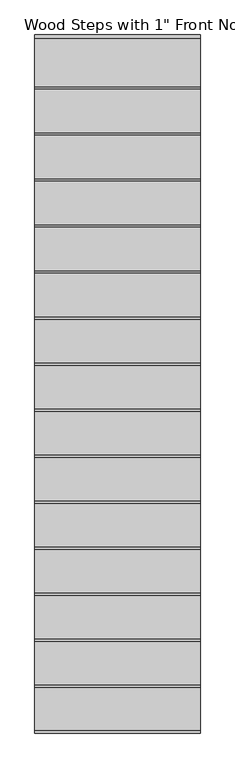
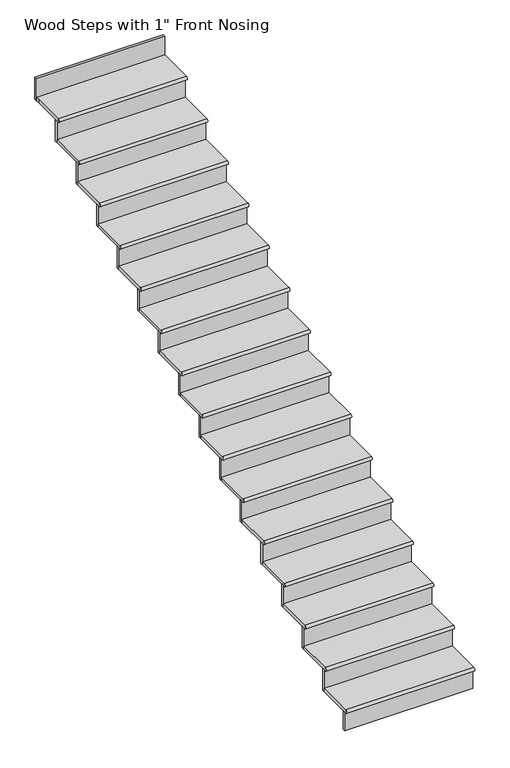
"""IFC4 building model written with IfcOpenShell, lengths in millimetres: stair flight geometry."""

from ifc_helpers import new_model, si_unit, frame, origin, place, context, project, spatial, circle_curve, faceted_brep, source, transform, mapped, element, save
from ifc_brep_helpers import plane_surface, cylinder_surface, advanced_brep


def stair_flight_ca58553a(model_context):
    return source(origin(), model_context, "Body", "SolidModel", [
        advanced_brep(
        [(11724.1620514, -5487.6289462, -819.546875), (11724.1620514, -5487.6289462, -794.146875), (10809.7620514, -5487.6289462, -794.146875), (10809.7620514, -5487.6289462, -819.546875), (10809.7620514, -5220.9289462, -794.146875), (11724.1620514, -5220.9289462, -794.146875), (10809.7620514, -5220.9289462, -819.546875), (11724.1620514, -5220.9289462, -819.546875)],
        [
            (0, 1, circle_curve(frame((11724.1620514, -5487.6289462, -806.846875), z_axis=(-1.0, 0.0, 0.0), x_axis=(0.0, 1.0, 0.0)), 12.7)),
            (1, 2),
            (2, 3, circle_curve(frame((10809.7620514, -5487.6289462, -806.846875), z_axis=(1.0, 0.0, 0.0), x_axis=(0.0, 1.0, 0.0)), 12.7)),
            (3, 0),
            (4, 2),
            (1, 5),
            (5, 4),
            (3, 6),
            (6, 7),
            (7, 0),
            (4, 6),
            (7, 5),
        ],
        [
            cylinder_surface(frame((11724.1620514, -5487.6289462, -806.846875), z_axis=(1.0, 0.0, 0.0), x_axis=(0.0, 1.0, 0.0)), 12.7),
            plane_surface(frame((10809.7620514, -5500.3289462, -794.146875), z_axis=(0.0, 0.0, 1.0), x_axis=(0.0, -1.0, 0.0))),
            plane_surface(frame((10809.7620514, -5500.3289462, -819.546875), z_axis=(0.0, 0.0, -1.0), x_axis=(0.0, 1.0, 0.0))),
            plane_surface(frame((10809.7620514, -5220.9289462, -794.146875), z_axis=(-1.0, 0.0, 0.0), x_axis=(0.0, 0.0, -1.0))),
            plane_surface(frame((11724.1620514, -5487.6289462, -794.146875), z_axis=(1.0, 0.0, 0.0), x_axis=(0.0, 0.0, -1.0))),
            plane_surface(frame((11724.1620514, -5220.9289462, -794.146875), z_axis=(0.0, 1.0, 0.0), x_axis=(0.0, 0.0, -1.0))),
        ],
        [
            (0, [[1, 2, 3, 4]]),
            (1, [[5, -2, 6, 7]]),
            (2, [[8, 9, 10, -4]]),
            (3, [[-5, 11, -8, -3]]),
            (4, [[-6, -1, -10, 12]]),
            (5, [[-7, -12, -9, -11]]),
        ],
    ),
        faceted_brep([(11724.1620514, -5474.9289462, -819.546875), (11724.1620514, -5474.9289462, -958.85), (11724.1620514, -5455.8789462, -958.85), (11724.1620514, -5455.8789462, -819.546875), (10809.7620514, -5474.9289462, -819.546875), (10809.7620514, -5455.8789462, -819.546875), (10809.7620514, -5455.8789462, -958.85), (10809.7620514, -5474.9289462, -958.85)], [[[0, 1, 2, 3]], [[4, 5, 6, 7]], [[1, 0, 4, 7]], [[2, 1, 7, 6]], [[3, 2, 6, 5]], [[0, 3, 5, 4]]]),
        faceted_brep([(11724.1620514, -5220.9289462, -654.84375), (11724.1620514, -5220.9289462, -819.546875), (11724.1620514, -5201.8789462, -819.546875), (11724.1620514, -5201.8789462, -654.84375), (10809.7620514, -5220.9289462, -654.84375), (10809.7620514, -5201.8789462, -654.84375), (10809.7620514, -5201.8789462, -819.546875), (10809.7620514, -5220.9289462, -819.546875)], [[[0, 1, 2, 3]], [[4, 5, 6, 7]], [[1, 0, 4, 7]], [[2, 1, 7, 6]], [[3, 2, 6, 5]], [[0, 3, 5, 4]]]),
        advanced_brep(
        [(10809.7620514, -4966.9289462, -629.44375), (10809.7620514, -5233.6289462, -629.44375), (11724.1620514, -5233.6289462, -629.44375), (11724.1620514, -4966.9289462, -629.44375), (10809.7620514, -5233.6289462, -654.84375), (10809.7620514, -4966.9289462, -654.84375), (11724.1620514, -4966.9289462, -654.84375), (11724.1620514, -5233.6289462, -654.84375)],
        [
            (0, 1),
            (1, 2),
            (2, 3),
            (3, 0),
            (4, 5),
            (5, 6),
            (6, 7),
            (7, 4),
            (0, 5),
            (4, 1, circle_curve(frame((10809.7620514, -5233.6289462, -642.14375), z_axis=(-1.0, 0.0, 0.0), x_axis=(0.0, 1.0, 0.0)), 12.7)),
            (2, 7, circle_curve(frame((11724.1620514, -5233.6289462, -642.14375), z_axis=(1.0, 0.0, 0.0), x_axis=(0.0, 1.0, 0.0)), 12.7)),
            (6, 3),
        ],
        [
            plane_surface(frame((10809.7620514, -5500.3289462, -629.44375), z_axis=(0.0, 0.0, 1.0), x_axis=(0.0, -1.0, 0.0))),
            plane_surface(frame((10809.7620514, -5500.3289462, -654.84375), z_axis=(0.0, 0.0, -1.0), x_axis=(0.0, 1.0, 0.0))),
            plane_surface(frame((10809.7620514, -4966.9289462, -629.44375), z_axis=(-1.0, 0.0, 0.0), x_axis=(0.0, 0.0, -1.0))),
            plane_surface(frame((11724.1620514, -5233.6289462, -629.44375), z_axis=(1.0, 0.0, 0.0), x_axis=(0.0, 0.0, -1.0))),
            plane_surface(frame((11724.1620514, -4966.9289462, -629.44375), z_axis=(0.0, 1.0, 0.0), x_axis=(0.0, 0.0, -1.0))),
            cylinder_surface(frame((11724.1620514, -5233.6289462, -642.14375), z_axis=(1.0, 0.0, 0.0), x_axis=(0.0, 1.0, 0.0)), 12.7),
        ],
        [
            (0, [[1, 2, 3, 4]]),
            (1, [[5, 6, 7, 8]]),
            (2, [[-1, 9, -5, 10]]),
            (3, [[-3, 11, -7, 12]]),
            (4, [[-4, -12, -6, -9]]),
            (5, [[-11, -2, -10, -8]]),
        ],
    ),
        faceted_brep([(11724.1620514, -4966.9289462, -490.140625), (11724.1620514, -4966.9289462, -654.84375), (11724.1620514, -4947.8789462, -654.84375), (11724.1620514, -4947.8789462, -490.140625), (10809.7620514, -4966.9289462, -490.140625), (10809.7620514, -4947.8789462, -490.140625), (10809.7620514, -4947.8789462, -654.84375), (10809.7620514, -4966.9289462, -654.84375)], [[[0, 1, 2, 3]], [[4, 5, 6, 7]], [[1, 0, 4, 7]], [[2, 1, 7, 6]], [[3, 2, 6, 5]], [[0, 3, 5, 4]]]),
        advanced_brep(
        [(10809.7620514, -4712.9289462, -464.740625), (10809.7620514, -4979.6289462, -464.740625), (11724.1620514, -4979.6289462, -464.740625), (11724.1620514, -4712.9289462, -464.740625), (10809.7620514, -4979.6289462, -490.140625), (10809.7620514, -4712.9289462, -490.140625), (11724.1620514, -4712.9289462, -490.140625), (11724.1620514, -4979.6289462, -490.140625)],
        [
            (0, 1),
            (1, 2),
            (2, 3),
            (3, 0),
            (4, 5),
            (5, 6),
            (6, 7),
            (7, 4),
            (0, 5),
            (4, 1, circle_curve(frame((10809.7620514, -4979.6289462, -477.440625), z_axis=(-1.0, 0.0, 0.0), x_axis=(0.0, 1.0, 0.0)), 12.7)),
            (2, 7, circle_curve(frame((11724.1620514, -4979.6289462, -477.440625), z_axis=(1.0, 0.0, 0.0), x_axis=(0.0, 1.0, 0.0)), 12.7)),
            (6, 3),
        ],
        [
            plane_surface(frame((10809.7620514, -5246.3289462, -464.740625), z_axis=(0.0, 0.0, 1.0), x_axis=(0.0, -1.0, 0.0))),
            plane_surface(frame((10809.7620514, -5246.3289462, -490.140625), z_axis=(0.0, 0.0, -1.0), x_axis=(0.0, 1.0, 0.0))),
            plane_surface(frame((10809.7620514, -4712.9289462, -464.740625), z_axis=(-1.0, 0.0, 0.0), x_axis=(0.0, 0.0, -1.0))),
            plane_surface(frame((11724.1620514, -4979.6289462, -464.740625), z_axis=(1.0, 0.0, 0.0), x_axis=(0.0, 0.0, -1.0))),
            plane_surface(frame((11724.1620514, -4712.9289462, -464.740625), z_axis=(0.0, 1.0, 0.0), x_axis=(0.0, 0.0, -1.0))),
            cylinder_surface(frame((11724.1620514, -4979.6289462, -477.440625), z_axis=(1.0, 0.0, 0.0), x_axis=(0.0, 1.0, 0.0)), 12.7),
        ],
        [
            (0, [[1, 2, 3, 4]]),
            (1, [[5, 6, 7, 8]]),
            (2, [[-1, 9, -5, 10]]),
            (3, [[-3, 11, -7, 12]]),
            (4, [[-4, -12, -6, -9]]),
            (5, [[-11, -2, -10, -8]]),
        ],
    ),
        faceted_brep([(11724.1620514, -4712.9289462, -325.4375), (11724.1620514, -4712.9289462, -490.140625), (11724.1620514, -4693.8789462, -490.140625), (11724.1620514, -4693.8789462, -325.4375), (10809.7620514, -4712.9289462, -325.4375), (10809.7620514, -4693.8789462, -325.4375), (10809.7620514, -4693.8789462, -490.140625), (10809.7620514, -4712.9289462, -490.140625)], [[[0, 1, 2, 3]], [[4, 5, 6, 7]], [[1, 0, 4, 7]], [[2, 1, 7, 6]], [[3, 2, 6, 5]], [[0, 3, 5, 4]]]),
        advanced_brep(
        [(10809.7620514, -4458.9289462, -300.0375), (10809.7620514, -4725.6289462, -300.0375), (11724.1620514, -4725.6289462, -300.0375), (11724.1620514, -4458.9289462, -300.0375), (10809.7620514, -4725.6289462, -325.4375), (10809.7620514, -4458.9289462, -325.4375), (11724.1620514, -4458.9289462, -325.4375), (11724.1620514, -4725.6289462, -325.4375)],
        [
            (0, 1),
            (1, 2),
            (2, 3),
            (3, 0),
            (4, 5),
            (5, 6),
            (6, 7),
            (7, 4),
            (0, 5),
            (4, 1, circle_curve(frame((10809.7620514, -4725.6289462, -312.7375), z_axis=(-1.0, 0.0, 0.0), x_axis=(0.0, 1.0, 0.0)), 12.7)),
            (2, 7, circle_curve(frame((11724.1620514, -4725.6289462, -312.7375), z_axis=(1.0, 0.0, 0.0), x_axis=(0.0, 1.0, 0.0)), 12.7)),
            (6, 3),
        ],
        [
            plane_surface(frame((10809.7620514, -4992.3289462, -300.0375), z_axis=(0.0, 0.0, 1.0), x_axis=(0.0, -1.0, 0.0))),
            plane_surface(frame((10809.7620514, -4992.3289462, -325.4375), z_axis=(0.0, 0.0, -1.0), x_axis=(0.0, 1.0, 0.0))),
            plane_surface(frame((10809.7620514, -4458.9289462, -300.0375), z_axis=(-1.0, 0.0, 0.0), x_axis=(0.0, 0.0, -1.0))),
            plane_surface(frame((11724.1620514, -4725.6289462, -300.0375), z_axis=(1.0, 0.0, 0.0), x_axis=(0.0, 0.0, -1.0))),
            plane_surface(frame((11724.1620514, -4458.9289462, -300.0375), z_axis=(0.0, 1.0, 0.0), x_axis=(0.0, 0.0, -1.0))),
            cylinder_surface(frame((11724.1620514, -4725.6289462, -312.7375), z_axis=(1.0, 0.0, 0.0), x_axis=(0.0, 1.0, 0.0)), 12.7),
        ],
        [
            (0, [[1, 2, 3, 4]]),
            (1, [[5, 6, 7, 8]]),
            (2, [[-1, 9, -5, 10]]),
            (3, [[-3, 11, -7, 12]]),
            (4, [[-4, -12, -6, -9]]),
            (5, [[-11, -2, -10, -8]]),
        ],
    ),
        faceted_brep([(11724.1620514, -4458.9289462, -160.734375), (11724.1620514, -4458.9289462, -325.4375), (11724.1620514, -4439.8789462, -325.4375), (11724.1620514, -4439.8789462, -160.734375), (10809.7620514, -4458.9289462, -160.734375), (10809.7620514, -4439.8789462, -160.734375), (10809.7620514, -4439.8789462, -325.4375), (10809.7620514, -4458.9289462, -325.4375)], [[[0, 1, 2, 3]], [[4, 5, 6, 7]], [[1, 0, 4, 7]], [[2, 1, 7, 6]], [[3, 2, 6, 5]], [[0, 3, 5, 4]]]),
        advanced_brep(
        [(10809.7620514, -4204.9289462, -135.334375), (10809.7620514, -4471.6289462, -135.334375), (11724.1620514, -4471.6289462, -135.334375), (11724.1620514, -4204.9289462, -135.334375), (10809.7620514, -4471.6289462, -160.734375), (10809.7620514, -4204.9289462, -160.734375), (11724.1620514, -4204.9289462, -160.734375), (11724.1620514, -4471.6289462, -160.734375)],
        [
            (0, 1),
            (1, 2),
            (2, 3),
            (3, 0),
            (4, 5),
            (5, 6),
            (6, 7),
            (7, 4),
            (0, 5),
            (4, 1, circle_curve(frame((10809.7620514, -4471.6289462, -148.034375), z_axis=(-1.0, 0.0, 0.0), x_axis=(0.0, 1.0, 0.0)), 12.7)),
            (2, 7, circle_curve(frame((11724.1620514, -4471.6289462, -148.034375), z_axis=(1.0, 0.0, 0.0), x_axis=(0.0, 1.0, 0.0)), 12.7)),
            (6, 3),
        ],
        [
            plane_surface(frame((10809.7620514, -4738.3289462, -135.334375), z_axis=(0.0, 0.0, 1.0), x_axis=(0.0, -1.0, 0.0))),
            plane_surface(frame((10809.7620514, -4738.3289462, -160.734375), z_axis=(0.0, 0.0, -1.0), x_axis=(0.0, 1.0, 0.0))),
            plane_surface(frame((10809.7620514, -4204.9289462, -135.334375), z_axis=(-1.0, 0.0, 0.0), x_axis=(0.0, 0.0, -1.0))),
            plane_surface(frame((11724.1620514, -4471.6289462, -135.334375), z_axis=(1.0, 0.0, 0.0), x_axis=(0.0, 0.0, -1.0))),
            plane_surface(frame((11724.1620514, -4204.9289462, -135.334375), z_axis=(0.0, 1.0, 0.0), x_axis=(0.0, 0.0, -1.0))),
            cylinder_surface(frame((11724.1620514, -4471.6289462, -148.034375), z_axis=(1.0, 0.0, 0.0), x_axis=(0.0, 1.0, 0.0)), 12.7),
        ],
        [
            (0, [[1, 2, 3, 4]]),
            (1, [[5, 6, 7, 8]]),
            (2, [[-1, 9, -5, 10]]),
            (3, [[-3, 11, -7, 12]]),
            (4, [[-4, -12, -6, -9]]),
            (5, [[-11, -2, -10, -8]]),
        ],
    ),
        faceted_brep([(11724.1620514, -4204.9289462, 3.96875), (11724.1620514, -4204.9289462, -160.734375), (11724.1620514, -4185.8789462, -160.734375), (11724.1620514, -4185.8789462, 3.96875), (10809.7620514, -4204.9289462, 3.96875), (10809.7620514, -4185.8789462, 3.96875), (10809.7620514, -4185.8789462, -160.734375), (10809.7620514, -4204.9289462, -160.734375)], [[[0, 1, 2, 3]], [[4, 5, 6, 7]], [[1, 0, 4, 7]], [[2, 1, 7, 6]], [[3, 2, 6, 5]], [[0, 3, 5, 4]]]),
        advanced_brep(
        [(10809.7620514, -3950.9289462, 29.36875), (10809.7620514, -4217.6289462, 29.36875), (11724.1620514, -4217.6289462, 29.36875), (11724.1620514, -3950.9289462, 29.36875), (10809.7620514, -4217.6289462, 3.96875), (10809.7620514, -3950.9289462, 3.96875), (11724.1620514, -3950.9289462, 3.96875), (11724.1620514, -4217.6289462, 3.96875)],
        [
            (0, 1),
            (1, 2),
            (2, 3),
            (3, 0),
            (4, 5),
            (5, 6),
            (6, 7),
            (7, 4),
            (0, 5),
            (4, 1, circle_curve(frame((10809.7620514, -4217.6289462, 16.66875), z_axis=(-1.0, 0.0, 0.0), x_axis=(0.0, 1.0, 0.0)), 12.7)),
            (2, 7, circle_curve(frame((11724.1620514, -4217.6289462, 16.66875), z_axis=(1.0, 0.0, 0.0), x_axis=(0.0, 1.0, 0.0)), 12.7)),
            (6, 3),
        ],
        [
            plane_surface(frame((10809.7620514, -4484.3289462, 29.36875), z_axis=(0.0, 0.0, 1.0), x_axis=(0.0, -1.0, 0.0))),
            plane_surface(frame((10809.7620514, -4484.3289462, 3.96875), z_axis=(0.0, 0.0, -1.0), x_axis=(0.0, 1.0, 0.0))),
            plane_surface(frame((10809.7620514, -3950.9289462, 29.36875), z_axis=(-1.0, 0.0, 0.0), x_axis=(0.0, 0.0, -1.0))),
            plane_surface(frame((11724.1620514, -4217.6289462, 29.36875), z_axis=(1.0, 0.0, 0.0), x_axis=(0.0, 0.0, -1.0))),
            plane_surface(frame((11724.1620514, -3950.9289462, 29.36875), z_axis=(0.0, 1.0, 0.0), x_axis=(0.0, 0.0, -1.0))),
            cylinder_surface(frame((11724.1620514, -4217.6289462, 16.66875), z_axis=(1.0, 0.0, 0.0), x_axis=(0.0, 1.0, 0.0)), 12.7),
        ],
        [
            (0, [[1, 2, 3, 4]]),
            (1, [[5, 6, 7, 8]]),
            (2, [[-1, 9, -5, 10]]),
            (3, [[-3, 11, -7, 12]]),
            (4, [[-4, -12, -6, -9]]),
            (5, [[-11, -2, -10, -8]]),
        ],
    ),
        faceted_brep([(11724.1620514, -3950.9289462, 168.671875), (11724.1620514, -3950.9289462, 3.96875), (11724.1620514, -3931.8789462, 3.96875), (11724.1620514, -3931.8789462, 168.671875), (10809.7620514, -3950.9289462, 168.671875), (10809.7620514, -3931.8789462, 168.671875), (10809.7620514, -3931.8789462, 3.96875), (10809.7620514, -3950.9289462, 3.96875)], [[[0, 1, 2, 3]], [[4, 5, 6, 7]], [[1, 0, 4, 7]], [[2, 1, 7, 6]], [[3, 2, 6, 5]], [[0, 3, 5, 4]]]),
        advanced_brep(
        [(10809.7620514, -3696.9289462, 194.071875), (10809.7620514, -3963.6289462, 194.071875), (11724.1620514, -3963.6289462, 194.071875), (11724.1620514, -3696.9289462, 194.071875), (10809.7620514, -3963.6289462, 168.671875), (10809.7620514, -3696.9289462, 168.671875), (11724.1620514, -3696.9289462, 168.671875), (11724.1620514, -3963.6289462, 168.671875)],
        [
            (0, 1),
            (1, 2),
            (2, 3),
            (3, 0),
            (4, 5),
            (5, 6),
            (6, 7),
            (7, 4),
            (0, 5),
            (4, 1, circle_curve(frame((10809.7620514, -3963.6289462, 181.371875), z_axis=(-1.0, 0.0, 0.0), x_axis=(0.0, 1.0, 0.0)), 12.7)),
            (2, 7, circle_curve(frame((11724.1620514, -3963.6289462, 181.371875), z_axis=(1.0, 0.0, 0.0), x_axis=(0.0, 1.0, 0.0)), 12.7)),
            (6, 3),
        ],
        [
            plane_surface(frame((10809.7620514, -4230.3289462, 194.071875), z_axis=(0.0, 0.0, 1.0), x_axis=(0.0, -1.0, 0.0))),
            plane_surface(frame((10809.7620514, -4230.3289462, 168.671875), z_axis=(0.0, 0.0, -1.0), x_axis=(0.0, 1.0, 0.0))),
            plane_surface(frame((10809.7620514, -3696.9289462, 194.071875), z_axis=(-1.0, 0.0, 0.0), x_axis=(0.0, 0.0, -1.0))),
            plane_surface(frame((11724.1620514, -3963.6289462, 194.071875), z_axis=(1.0, 0.0, 0.0), x_axis=(0.0, 0.0, -1.0))),
            plane_surface(frame((11724.1620514, -3696.9289462, 194.071875), z_axis=(0.0, 1.0, 0.0), x_axis=(0.0, 0.0, -1.0))),
            cylinder_surface(frame((11724.1620514, -3963.6289462, 181.371875), z_axis=(1.0, 0.0, 0.0), x_axis=(0.0, 1.0, 0.0)), 12.7),
        ],
        [
            (0, [[1, 2, 3, 4]]),
            (1, [[5, 6, 7, 8]]),
            (2, [[-1, 9, -5, 10]]),
            (3, [[-3, 11, -7, 12]]),
            (4, [[-4, -12, -6, -9]]),
            (5, [[-11, -2, -10, -8]]),
        ],
    ),
        faceted_brep([(11724.1620514, -3696.9289462, 333.375), (11724.1620514, -3696.9289462, 168.671875), (11724.1620514, -3677.8789462, 168.671875), (11724.1620514, -3677.8789462, 333.375), (10809.7620514, -3696.9289462, 333.375), (10809.7620514, -3677.8789462, 333.375), (10809.7620514, -3677.8789462, 168.671875), (10809.7620514, -3696.9289462, 168.671875)], [[[0, 1, 2, 3]], [[4, 5, 6, 7]], [[1, 0, 4, 7]], [[2, 1, 7, 6]], [[3, 2, 6, 5]], [[0, 3, 5, 4]]]),
        advanced_brep(
        [(10809.7620514, -3442.9289462, 358.775), (10809.7620514, -3709.6289462, 358.775), (11724.1620514, -3709.6289462, 358.775), (11724.1620514, -3442.9289462, 358.775), (10809.7620514, -3709.6289462, 333.375), (10809.7620514, -3442.9289462, 333.375), (11724.1620514, -3442.9289462, 333.375), (11724.1620514, -3709.6289462, 333.375)],
        [
            (0, 1),
            (1, 2),
            (2, 3),
            (3, 0),
            (4, 5),
            (5, 6),
            (6, 7),
            (7, 4),
            (0, 5),
            (4, 1, circle_curve(frame((10809.7620514, -3709.6289462, 346.075), z_axis=(-1.0, 0.0, 0.0), x_axis=(0.0, 1.0, 0.0)), 12.7)),
            (2, 7, circle_curve(frame((11724.1620514, -3709.6289462, 346.075), z_axis=(1.0, 0.0, 0.0), x_axis=(0.0, 1.0, 0.0)), 12.7)),
            (6, 3),
        ],
        [
            plane_surface(frame((10809.7620514, -3976.3289462, 358.775), z_axis=(0.0, 0.0, 1.0), x_axis=(0.0, -1.0, 0.0))),
            plane_surface(frame((10809.7620514, -3976.3289462, 333.375), z_axis=(0.0, 0.0, -1.0), x_axis=(0.0, 1.0, 0.0))),
            plane_surface(frame((10809.7620514, -3442.9289462, 358.775), z_axis=(-1.0, 0.0, 0.0), x_axis=(0.0, 0.0, -1.0))),
            plane_surface(frame((11724.1620514, -3709.6289462, 358.775), z_axis=(1.0, 0.0, 0.0), x_axis=(0.0, 0.0, -1.0))),
            plane_surface(frame((11724.1620514, -3442.9289462, 358.775), z_axis=(0.0, 1.0, 0.0), x_axis=(0.0, 0.0, -1.0))),
            cylinder_surface(frame((11724.1620514, -3709.6289462, 346.075), z_axis=(1.0, 0.0, 0.0), x_axis=(0.0, 1.0, 0.0)), 12.7),
        ],
        [
            (0, [[1, 2, 3, 4]]),
            (1, [[5, 6, 7, 8]]),
            (2, [[-1, 9, -5, 10]]),
            (3, [[-3, 11, -7, 12]]),
            (4, [[-4, -12, -6, -9]]),
            (5, [[-11, -2, -10, -8]]),
        ],
    ),
        faceted_brep([(11724.1620514, -3442.9289462, 498.078125), (11724.1620514, -3442.9289462, 333.375), (11724.1620514, -3423.8789462, 333.375), (11724.1620514, -3423.8789462, 498.078125), (10809.7620514, -3442.9289462, 498.078125), (10809.7620514, -3423.8789462, 498.078125), (10809.7620514, -3423.8789462, 333.375), (10809.7620514, -3442.9289462, 333.375)], [[[0, 1, 2, 3]], [[4, 5, 6, 7]], [[1, 0, 4, 7]], [[2, 1, 7, 6]], [[3, 2, 6, 5]], [[0, 3, 5, 4]]]),
        advanced_brep(
        [(10809.7620514, -3188.9289462, 523.478125), (10809.7620514, -3455.6289462, 523.478125), (11724.1620514, -3455.6289462, 523.478125), (11724.1620514, -3188.9289462, 523.478125), (10809.7620514, -3455.6289462, 498.078125), (10809.7620514, -3188.9289462, 498.078125), (11724.1620514, -3188.9289462, 498.078125), (11724.1620514, -3455.6289462, 498.078125)],
        [
            (0, 1),
            (1, 2),
            (2, 3),
            (3, 0),
            (4, 5),
            (5, 6),
            (6, 7),
            (7, 4),
            (0, 5),
            (4, 1, circle_curve(frame((10809.7620514, -3455.6289462, 510.778125), z_axis=(-1.0, 0.0, 0.0), x_axis=(0.0, 1.0, 0.0)), 12.7)),
            (2, 7, circle_curve(frame((11724.1620514, -3455.6289462, 510.778125), z_axis=(1.0, 0.0, 0.0), x_axis=(0.0, 1.0, 0.0)), 12.7)),
            (6, 3),
        ],
        [
            plane_surface(frame((10809.7620514, -3722.3289462, 523.478125), z_axis=(0.0, 0.0, 1.0), x_axis=(0.0, -1.0, 0.0))),
            plane_surface(frame((10809.7620514, -3722.3289462, 498.078125), z_axis=(0.0, 0.0, -1.0), x_axis=(0.0, 1.0, 0.0))),
            plane_surface(frame((10809.7620514, -3188.9289462, 523.478125), z_axis=(-1.0, 0.0, 0.0), x_axis=(0.0, 0.0, -1.0))),
            plane_surface(frame((11724.1620514, -3455.6289462, 523.478125), z_axis=(1.0, 0.0, 0.0), x_axis=(0.0, 0.0, -1.0))),
            plane_surface(frame((11724.1620514, -3188.9289462, 523.478125), z_axis=(0.0, 1.0, 0.0), x_axis=(0.0, 0.0, -1.0))),
            cylinder_surface(frame((11724.1620514, -3455.6289462, 510.778125), z_axis=(1.0, 0.0, 0.0), x_axis=(0.0, 1.0, 0.0)), 12.7),
        ],
        [
            (0, [[1, 2, 3, 4]]),
            (1, [[5, 6, 7, 8]]),
            (2, [[-1, 9, -5, 10]]),
            (3, [[-3, 11, -7, 12]]),
            (4, [[-4, -12, -6, -9]]),
            (5, [[-11, -2, -10, -8]]),
        ],
    ),
        faceted_brep([(11724.1620514, -3188.9289462, 662.78125), (11724.1620514, -3188.9289462, 498.078125), (11724.1620514, -3169.8789462, 498.078125), (11724.1620514, -3169.8789462, 662.78125), (10809.7620514, -3188.9289462, 662.78125), (10809.7620514, -3169.8789462, 662.78125), (10809.7620514, -3169.8789462, 498.078125), (10809.7620514, -3188.9289462, 498.078125)], [[[0, 1, 2, 3]], [[4, 5, 6, 7]], [[1, 0, 4, 7]], [[2, 1, 7, 6]], [[3, 2, 6, 5]], [[0, 3, 5, 4]]]),
        advanced_brep(
        [(10809.7620514, -2934.9289462, 688.18125), (10809.7620514, -3201.6289462, 688.18125), (11724.1620514, -3201.6289462, 688.18125), (11724.1620514, -2934.9289462, 688.18125), (10809.7620514, -3201.6289462, 662.78125), (10809.7620514, -2934.9289462, 662.78125), (11724.1620514, -2934.9289462, 662.78125), (11724.1620514, -3201.6289462, 662.78125)],
        [
            (0, 1),
            (1, 2),
            (2, 3),
            (3, 0),
            (4, 5),
            (5, 6),
            (6, 7),
            (7, 4),
            (0, 5),
            (4, 1, circle_curve(frame((10809.7620514, -3201.6289462, 675.48125), z_axis=(-1.0, 0.0, 0.0), x_axis=(0.0, 1.0, 0.0)), 12.7)),
            (2, 7, circle_curve(frame((11724.1620514, -3201.6289462, 675.48125), z_axis=(1.0, 0.0, 0.0), x_axis=(0.0, 1.0, 0.0)), 12.7)),
            (6, 3),
        ],
        [
            plane_surface(frame((10809.7620514, -3468.3289462, 688.18125), z_axis=(0.0, 0.0, 1.0), x_axis=(0.0, -1.0, 0.0))),
            plane_surface(frame((10809.7620514, -3468.3289462, 662.78125), z_axis=(0.0, 0.0, -1.0), x_axis=(0.0, 1.0, 0.0))),
            plane_surface(frame((10809.7620514, -2934.9289462, 688.18125), z_axis=(-1.0, 0.0, 0.0), x_axis=(0.0, 0.0, -1.0))),
            plane_surface(frame((11724.1620514, -3201.6289462, 688.18125), z_axis=(1.0, 0.0, 0.0), x_axis=(0.0, 0.0, -1.0))),
            plane_surface(frame((11724.1620514, -2934.9289462, 688.18125), z_axis=(0.0, 1.0, 0.0), x_axis=(0.0, 0.0, -1.0))),
            cylinder_surface(frame((11724.1620514, -3201.6289462, 675.48125), z_axis=(1.0, 0.0, 0.0), x_axis=(0.0, 1.0, 0.0)), 12.7),
        ],
        [
            (0, [[1, 2, 3, 4]]),
            (1, [[5, 6, 7, 8]]),
            (2, [[-1, 9, -5, 10]]),
            (3, [[-3, 11, -7, 12]]),
            (4, [[-4, -12, -6, -9]]),
            (5, [[-11, -2, -10, -8]]),
        ],
    ),
        faceted_brep([(11724.1620514, -2934.9289462, 827.484375), (11724.1620514, -2934.9289462, 662.78125), (11724.1620514, -2915.8789462, 662.78125), (11724.1620514, -2915.8789462, 827.484375), (10809.7620514, -2934.9289462, 827.484375), (10809.7620514, -2915.8789462, 827.484375), (10809.7620514, -2915.8789462, 662.78125), (10809.7620514, -2934.9289462, 662.78125)], [[[0, 1, 2, 3]], [[4, 5, 6, 7]], [[1, 0, 4, 7]], [[2, 1, 7, 6]], [[3, 2, 6, 5]], [[0, 3, 5, 4]]]),
        advanced_brep(
        [(10809.7620514, -2680.9289462, 852.884375), (10809.7620514, -2947.6289462, 852.884375), (11724.1620514, -2947.6289462, 852.884375), (11724.1620514, -2680.9289462, 852.884375), (10809.7620514, -2947.6289462, 827.484375), (10809.7620514, -2680.9289462, 827.484375), (11724.1620514, -2680.9289462, 827.484375), (11724.1620514, -2947.6289462, 827.484375)],
        [
            (0, 1),
            (1, 2),
            (2, 3),
            (3, 0),
            (4, 5),
            (5, 6),
            (6, 7),
            (7, 4),
            (0, 5),
            (4, 1, circle_curve(frame((10809.7620514, -2947.6289462, 840.184375), z_axis=(-1.0, 0.0, 0.0), x_axis=(0.0, 1.0, 0.0)), 12.7)),
            (2, 7, circle_curve(frame((11724.1620514, -2947.6289462, 840.184375), z_axis=(1.0, 0.0, 0.0), x_axis=(0.0, 1.0, 0.0)), 12.7)),
            (6, 3),
        ],
        [
            plane_surface(frame((10809.7620514, -3214.3289462, 852.884375), z_axis=(0.0, 0.0, 1.0), x_axis=(0.0, -1.0, 0.0))),
            plane_surface(frame((10809.7620514, -3214.3289462, 827.484375), z_axis=(0.0, 0.0, -1.0), x_axis=(0.0, 1.0, 0.0))),
            plane_surface(frame((10809.7620514, -2680.9289462, 852.884375), z_axis=(-1.0, 0.0, 0.0), x_axis=(0.0, 0.0, -1.0))),
            plane_surface(frame((11724.1620514, -2947.6289462, 852.884375), z_axis=(1.0, 0.0, 0.0), x_axis=(0.0, 0.0, -1.0))),
            plane_surface(frame((11724.1620514, -2680.9289462, 852.884375), z_axis=(0.0, 1.0, 0.0), x_axis=(0.0, 0.0, -1.0))),
            cylinder_surface(frame((11724.1620514, -2947.6289462, 840.184375), z_axis=(1.0, 0.0, 0.0), x_axis=(0.0, 1.0, 0.0)), 12.7),
        ],
        [
            (0, [[1, 2, 3, 4]]),
            (1, [[5, 6, 7, 8]]),
            (2, [[-1, 9, -5, 10]]),
            (3, [[-3, 11, -7, 12]]),
            (4, [[-4, -12, -6, -9]]),
            (5, [[-11, -2, -10, -8]]),
        ],
    ),
        faceted_brep([(11724.1620514, -2680.9289462, 992.1875), (11724.1620514, -2680.9289462, 827.484375), (11724.1620514, -2661.8789462, 827.484375), (11724.1620514, -2661.8789462, 992.1875), (10809.7620514, -2680.9289462, 992.1875), (10809.7620514, -2661.8789462, 992.1875), (10809.7620514, -2661.8789462, 827.484375), (10809.7620514, -2680.9289462, 827.484375)], [[[0, 1, 2, 3]], [[4, 5, 6, 7]], [[1, 0, 4, 7]], [[2, 1, 7, 6]], [[3, 2, 6, 5]], [[0, 3, 5, 4]]]),
        advanced_brep(
        [(10809.7620514, -2426.9289462, 1017.5875), (10809.7620514, -2693.6289462, 1017.5875), (11724.1620514, -2693.6289462, 1017.5875), (11724.1620514, -2426.9289462, 1017.5875), (10809.7620514, -2693.6289462, 992.1875), (10809.7620514, -2426.9289462, 992.1875), (11724.1620514, -2426.9289462, 992.1875), (11724.1620514, -2693.6289462, 992.1875)],
        [
            (0, 1),
            (1, 2),
            (2, 3),
            (3, 0),
            (4, 5),
            (5, 6),
            (6, 7),
            (7, 4),
            (0, 5),
            (4, 1, circle_curve(frame((10809.7620514, -2693.6289462, 1004.8875), z_axis=(-1.0, 0.0, 0.0), x_axis=(0.0, 1.0, 0.0)), 12.7)),
            (2, 7, circle_curve(frame((11724.1620514, -2693.6289462, 1004.8875), z_axis=(1.0, 0.0, 0.0), x_axis=(0.0, 1.0, 0.0)), 12.7)),
            (6, 3),
        ],
        [
            plane_surface(frame((10809.7620514, -2960.3289462, 1017.5875), z_axis=(0.0, 0.0, 1.0), x_axis=(0.0, -1.0, 0.0))),
            plane_surface(frame((10809.7620514, -2960.3289462, 992.1875), z_axis=(0.0, 0.0, -1.0), x_axis=(0.0, 1.0, 0.0))),
            plane_surface(frame((10809.7620514, -2426.9289462, 1017.5875), z_axis=(-1.0, 0.0, 0.0), x_axis=(0.0, 0.0, -1.0))),
            plane_surface(frame((11724.1620514, -2693.6289462, 1017.5875), z_axis=(1.0, 0.0, 0.0), x_axis=(0.0, 0.0, -1.0))),
            plane_surface(frame((11724.1620514, -2426.9289462, 1017.5875), z_axis=(0.0, 1.0, 0.0), x_axis=(0.0, 0.0, -1.0))),
            cylinder_surface(frame((11724.1620514, -2693.6289462, 1004.8875), z_axis=(1.0, 0.0, 0.0), x_axis=(0.0, 1.0, 0.0)), 12.7),
        ],
        [
            (0, [[1, 2, 3, 4]]),
            (1, [[5, 6, 7, 8]]),
            (2, [[-1, 9, -5, 10]]),
            (3, [[-3, 11, -7, 12]]),
            (4, [[-4, -12, -6, -9]]),
            (5, [[-11, -2, -10, -8]]),
        ],
    ),
        faceted_brep([(11724.1620514, -2426.9289462, 1156.890625), (11724.1620514, -2426.9289462, 992.1875), (11724.1620514, -2407.8789462, 992.1875), (11724.1620514, -2407.8789462, 1156.890625), (10809.7620514, -2426.9289462, 1156.890625), (10809.7620514, -2407.8789462, 1156.890625), (10809.7620514, -2407.8789462, 992.1875), (10809.7620514, -2426.9289462, 992.1875)], [[[0, 1, 2, 3]], [[4, 5, 6, 7]], [[1, 0, 4, 7]], [[2, 1, 7, 6]], [[3, 2, 6, 5]], [[0, 3, 5, 4]]]),
        advanced_brep(
        [(10809.7620514, -2172.9289462, 1182.290625), (10809.7620514, -2439.6289462, 1182.290625), (11724.1620514, -2439.6289462, 1182.290625), (11724.1620514, -2172.9289462, 1182.290625), (10809.7620514, -2439.6289462, 1156.890625), (10809.7620514, -2172.9289462, 1156.890625), (11724.1620514, -2172.9289462, 1156.890625), (11724.1620514, -2439.6289462, 1156.890625)],
        [
            (0, 1),
            (1, 2),
            (2, 3),
            (3, 0),
            (4, 5),
            (5, 6),
            (6, 7),
            (7, 4),
            (0, 5),
            (4, 1, circle_curve(frame((10809.7620514, -2439.6289462, 1169.590625), z_axis=(-1.0, 0.0, 0.0), x_axis=(0.0, 1.0, 0.0)), 12.7)),
            (2, 7, circle_curve(frame((11724.1620514, -2439.6289462, 1169.590625), z_axis=(1.0, 0.0, 0.0), x_axis=(0.0, 1.0, 0.0)), 12.7)),
            (6, 3),
        ],
        [
            plane_surface(frame((10809.7620514, -2706.3289462, 1182.290625), z_axis=(0.0, 0.0, 1.0), x_axis=(0.0, -1.0, 0.0))),
            plane_surface(frame((10809.7620514, -2706.3289462, 1156.890625), z_axis=(0.0, 0.0, -1.0), x_axis=(0.0, 1.0, 0.0))),
            plane_surface(frame((10809.7620514, -2172.9289462, 1182.290625), z_axis=(-1.0, 0.0, 0.0), x_axis=(0.0, 0.0, -1.0))),
            plane_surface(frame((11724.1620514, -2439.6289462, 1182.290625), z_axis=(1.0, 0.0, 0.0), x_axis=(0.0, 0.0, -1.0))),
            plane_surface(frame((11724.1620514, -2172.9289462, 1182.290625), z_axis=(0.0, 1.0, 0.0), x_axis=(0.0, 0.0, -1.0))),
            cylinder_surface(frame((11724.1620514, -2439.6289462, 1169.590625), z_axis=(1.0, 0.0, 0.0), x_axis=(0.0, 1.0, 0.0)), 12.7),
        ],
        [
            (0, [[1, 2, 3, 4]]),
            (1, [[5, 6, 7, 8]]),
            (2, [[-1, 9, -5, 10]]),
            (3, [[-3, 11, -7, 12]]),
            (4, [[-4, -12, -6, -9]]),
            (5, [[-11, -2, -10, -8]]),
        ],
    ),
        faceted_brep([(11724.1620514, -2172.9289462, 1321.59375), (11724.1620514, -2172.9289462, 1156.890625), (11724.1620514, -2153.8789462, 1156.890625), (11724.1620514, -2153.8789462, 1321.59375), (10809.7620514, -2172.9289462, 1321.59375), (10809.7620514, -2153.8789462, 1321.59375), (10809.7620514, -2153.8789462, 1156.890625), (10809.7620514, -2172.9289462, 1156.890625)], [[[0, 1, 2, 3]], [[4, 5, 6, 7]], [[1, 0, 4, 7]], [[2, 1, 7, 6]], [[3, 2, 6, 5]], [[0, 3, 5, 4]]]),
        advanced_brep(
        [(10809.7620514, -1918.9289462, 1346.99375), (10809.7620514, -2185.6289462, 1346.99375), (11724.1620514, -2185.6289462, 1346.99375), (11724.1620514, -1918.9289462, 1346.99375), (10809.7620514, -2185.6289462, 1321.59375), (10809.7620514, -1918.9289462, 1321.59375), (11724.1620514, -1918.9289462, 1321.59375), (11724.1620514, -2185.6289462, 1321.59375)],
        [
            (0, 1),
            (1, 2),
            (2, 3),
            (3, 0),
            (4, 5),
            (5, 6),
            (6, 7),
            (7, 4),
            (0, 5),
            (4, 1, circle_curve(frame((10809.7620514, -2185.6289462, 1334.29375), z_axis=(-1.0, 0.0, 0.0), x_axis=(0.0, 1.0, 0.0)), 12.7)),
            (2, 7, circle_curve(frame((11724.1620514, -2185.6289462, 1334.29375), z_axis=(1.0, 0.0, 0.0), x_axis=(0.0, 1.0, 0.0)), 12.7)),
            (6, 3),
        ],
        [
            plane_surface(frame((10809.7620514, -2452.3289462, 1346.99375), z_axis=(0.0, 0.0, 1.0), x_axis=(0.0, -1.0, 0.0))),
            plane_surface(frame((10809.7620514, -2452.3289462, 1321.59375), z_axis=(0.0, 0.0, -1.0), x_axis=(0.0, 1.0, 0.0))),
            plane_surface(frame((10809.7620514, -1918.9289462, 1346.99375), z_axis=(-1.0, 0.0, 0.0), x_axis=(0.0, 0.0, -1.0))),
            plane_surface(frame((11724.1620514, -2185.6289462, 1346.99375), z_axis=(1.0, 0.0, 0.0), x_axis=(0.0, 0.0, -1.0))),
            plane_surface(frame((11724.1620514, -1918.9289462, 1346.99375), z_axis=(0.0, 1.0, 0.0), x_axis=(0.0, 0.0, -1.0))),
            cylinder_surface(frame((11724.1620514, -2185.6289462, 1334.29375), z_axis=(1.0, 0.0, 0.0), x_axis=(0.0, 1.0, 0.0)), 12.7),
        ],
        [
            (0, [[1, 2, 3, 4]]),
            (1, [[5, 6, 7, 8]]),
            (2, [[-1, 9, -5, 10]]),
            (3, [[-3, 11, -7, 12]]),
            (4, [[-4, -12, -6, -9]]),
            (5, [[-11, -2, -10, -8]]),
        ],
    ),
        faceted_brep([(11724.1620514, -1664.9289462, 1651.0), (11724.1620514, -1664.9289462, 1486.296875), (11724.1620514, -1645.8789462, 1486.296875), (11724.1620514, -1645.8789462, 1651.0), (10809.7620514, -1664.9289462, 1651.0), (10809.7620514, -1645.8789462, 1651.0), (10809.7620514, -1645.8789462, 1486.296875), (10809.7620514, -1664.9289462, 1486.296875)], [[[0, 1, 2, 3]], [[4, 5, 6, 7]], [[1, 0, 4, 7]], [[2, 1, 7, 6]], [[3, 2, 6, 5]], [[0, 3, 5, 4]]]),
        faceted_brep([(11724.1620514, -1918.9289462, 1486.296875), (11724.1620514, -1918.9289462, 1321.59375), (11724.1620514, -1899.8789462, 1321.59375), (11724.1620514, -1899.8789462, 1486.296875), (10809.7620514, -1918.9289462, 1486.296875), (10809.7620514, -1899.8789462, 1486.296875), (10809.7620514, -1899.8789462, 1321.59375), (10809.7620514, -1918.9289462, 1321.59375)], [[[0, 1, 2, 3]], [[4, 5, 6, 7]], [[1, 0, 4, 7]], [[2, 1, 7, 6]], [[3, 2, 6, 5]], [[0, 3, 5, 4]]]),
        advanced_brep(
        [(10809.7620514, -1664.9289462, 1511.696875), (10809.7620514, -1690.3289462, 1511.696875), (10809.7620514, -1931.6289462, 1511.696875), (11724.1620514, -1931.6289462, 1511.696875), (11724.1620514, -1690.3289462, 1511.696875), (11724.1620514, -1664.9289462, 1511.696875), (10809.7620514, -1690.3289462, 1486.296875), (10809.7620514, -1664.9289462, 1486.296875), (11724.1620514, -1664.9289462, 1486.296875), (11724.1620514, -1690.3289462, 1486.296875), (11724.1620514, -1931.6289462, 1486.296875), (10809.7620514, -1931.6289462, 1486.296875)],
        [
            (0, 1),
            (1, 2),
            (2, 3),
            (3, 4),
            (4, 5),
            (5, 0),
            (6, 7),
            (7, 8),
            (8, 9),
            (9, 10),
            (10, 11),
            (11, 6),
            (0, 7),
            (6, 1),
            (11, 2, circle_curve(frame((10809.7620514, -1931.6289462, 1498.996875), z_axis=(-1.0, 0.0, 0.0), x_axis=(0.0, 1.0, 0.0)), 12.7)),
            (3, 10, circle_curve(frame((11724.1620514, -1931.6289462, 1498.996875), z_axis=(1.0, 0.0, 0.0), x_axis=(0.0, 1.0, 0.0)), 12.7)),
            (9, 4),
            (8, 5),
        ],
        [
            plane_surface(frame((10809.7620514, -1690.3289462, 1511.696875), z_axis=(0.0, 0.0, 1.0), x_axis=(0.0, -1.0, 0.0))),
            plane_surface(frame((10809.7620514, -1690.3289462, 1486.296875), z_axis=(0.0, 0.0, -1.0), x_axis=(0.0, 1.0, 0.0))),
            plane_surface(frame((10809.7620514, -1664.9289462, 1511.696875), z_axis=(-1.0, 0.0, 0.0), x_axis=(0.0, 0.0, -1.0))),
            plane_surface(frame((10809.7620514, -1690.3289462, 1511.696875), z_axis=(-1.0, 0.0, 0.0), x_axis=(0.0, 0.0, -1.0))),
            plane_surface(frame((11724.1620514, -1931.6289462, 1511.696875), z_axis=(1.0, 0.0, 0.0), x_axis=(0.0, 0.0, -1.0))),
            plane_surface(frame((11724.1620514, -1690.3289462, 1511.696875), z_axis=(1.0, 0.0, 0.0), x_axis=(0.0, 0.0, -1.0))),
            plane_surface(frame((11724.1620514, -1664.9289462, 1511.696875), z_axis=(0.0, 1.0, 0.0), x_axis=(0.0, 0.0, -1.0))),
            cylinder_surface(frame((11724.1620514, -1931.6289462, 1498.996875), z_axis=(1.0, 0.0, 0.0), x_axis=(0.0, 1.0, 0.0)), 12.7),
        ],
        [
            (0, [[1, 2, 3, 4, 5, 6]]),
            (1, [[7, 8, 9, 10, 11, 12]]),
            (2, [[-1, 13, -7, 14]]),
            (3, [[-2, -14, -12, 15]]),
            (4, [[-4, 16, -10, 17]]),
            (5, [[-5, -17, -9, 18]]),
            (6, [[-6, -18, -8, -13]]),
            (7, [[-16, -3, -15, -11]]),
        ],
    ),
    ])


if __name__ == "__main__":
    model = new_model("IFC4")
    model_context = context("Model", 3, world=origin())
    ifc_project = project(units=[si_unit("LENGTHUNIT", "METRE", prefix="MILLI")], contexts=[model_context])
    site = spatial("IfcSite", under=ifc_project)
    building = spatial("IfcBuilding", under=site)
    placement = place(None, origin())
    stair_flight_shape = stair_flight_ca58553a(model_context)
    element("IfcStairFlight", 1, ObjectType="Wood Steps with 1\" Front Nosing", at=placement, inside=building, context=model_context, shape_type="MappedRepresentation", body=[
        mapped(stair_flight_shape, transform((0.0, 0.0, 0.0), x_axis=(1.0, 0.0, 0.0), y_axis=(0.0, 1.0, 0.0), z_axis=(0.0, 0.0, 1.0))),
    ])
    save(model, "model.ifc")
